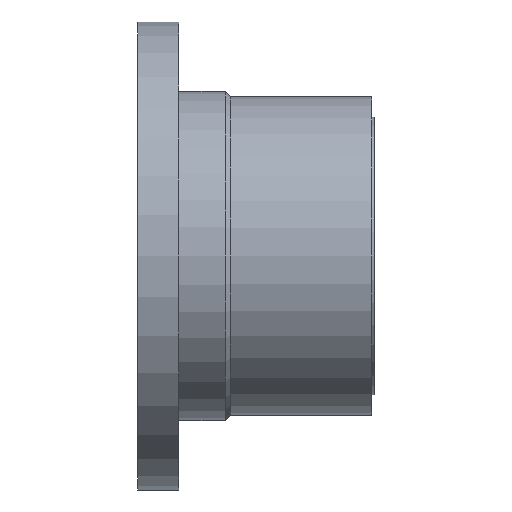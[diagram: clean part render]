
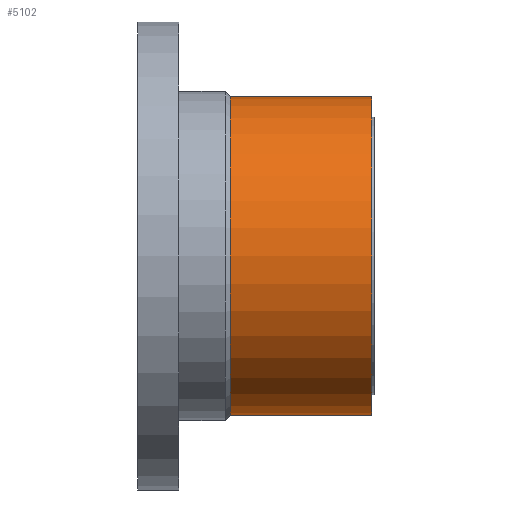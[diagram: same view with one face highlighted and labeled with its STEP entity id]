
A CAD part, left-side view. The second image highlights one B-rep face of the part: STEP entity #5102.
In plain terms, the highlighted cylindrical face has radius 31 mm (diameter 62 mm), a partial arc.
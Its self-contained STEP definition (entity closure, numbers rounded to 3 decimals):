
#389 = DIRECTION ( 'NONE',  ( 0., 1., 0. ) ) ;
#777 = DIRECTION ( 'NONE',  ( 0., 1., 0. ) ) ;
#828 = DIRECTION ( 'NONE',  ( 0., 0., 1. ) ) ;
#1477 = CARTESIAN_POINT ( 'NONE',  ( 0., -4., 31. ) ) ;
#1560 = CYLINDRICAL_SURFACE ( 'NONE', #10081, 31. ) ;
#1780 = VERTEX_POINT ( 'NONE', #11649 ) ;
#1851 = EDGE_CURVE ( 'NONE', #1780, #8009, #9163, .T. ) ;
#2105 = VERTEX_POINT ( 'NONE', #10418 ) ;
#2279 = DIRECTION ( 'NONE',  ( 0., 0., 1. ) ) ;
#2815 = ORIENTED_EDGE ( 'NONE', *, *, #1851, .F. ) ;
#3140 = CARTESIAN_POINT ( 'NONE',  ( 0., -31.5, 0. ) ) ;
#3439 = CARTESIAN_POINT ( 'NONE',  ( 0., -4., 0. ) ) ;
#3449 = CIRCLE ( 'NONE', #10293, 31. ) ;
#4007 = EDGE_CURVE ( 'NONE', #2105, #1780, #10565, .T. ) ;
#4245 = DIRECTION ( 'NONE',  ( 0., 1., 0. ) ) ;
#5052 = AXIS2_PLACEMENT_3D ( 'NONE', #3439, #4245, #7185 ) ;
#5102 = ADVANCED_FACE ( 'NONE', ( #5358 ), #1560, .T. ) ;
#5358 = FACE_OUTER_BOUND ( 'NONE', #8579, .T. ) ;
#6800 = VERTEX_POINT ( 'NONE', #11534 ) ;
#7068 = CARTESIAN_POINT ( 'NONE',  ( 0., -32.05, 31. ) ) ;
#7158 = ORIENTED_EDGE ( 'NONE', *, *, #4007, .F. ) ;
#7185 = DIRECTION ( 'NONE',  ( 0.857, 0., 0.515 ) ) ;
#7636 = DIRECTION ( 'NONE',  ( 0., 1., 0. ) ) ;
#7991 = LINE ( 'NONE', #7068, #9314 ) ;
#8009 = VERTEX_POINT ( 'NONE', #1477 ) ;
#8579 = EDGE_LOOP ( 'NONE', ( #7158, #11253, #8999, #2815 ) ) ;
#8999 = ORIENTED_EDGE ( 'NONE', *, *, #10624, .T. ) ;
#9163 = CIRCLE ( 'NONE', #5052, 31. ) ;
#9314 = VECTOR ( 'NONE', #11950, 1000. ) ;
#9466 = CARTESIAN_POINT ( 'NONE',  ( 0., -32.05, -31. ) ) ;
#10081 = AXIS2_PLACEMENT_3D ( 'NONE', #11851, #777, #828 ) ;
#10293 = AXIS2_PLACEMENT_3D ( 'NONE', #3140, #389, #2279 ) ;
#10374 = EDGE_CURVE ( 'NONE', #2105, #6800, #3449, .T. ) ;
#10418 = CARTESIAN_POINT ( 'NONE',  ( 0., -31.5, -31. ) ) ;
#10565 = LINE ( 'NONE', #9466, #11456 ) ;
#10624 = EDGE_CURVE ( 'NONE', #6800, #8009, #7991, .T. ) ;
#11253 = ORIENTED_EDGE ( 'NONE', *, *, #10374, .T. ) ;
#11456 = VECTOR ( 'NONE', #7636, 1000. ) ;
#11534 = CARTESIAN_POINT ( 'NONE',  ( 0., -31.5, 31. ) ) ;
#11649 = CARTESIAN_POINT ( 'NONE',  ( 0., -4., -31. ) ) ;
#11851 = CARTESIAN_POINT ( 'NONE',  ( 0., -32.05, 0. ) ) ;
#11950 = DIRECTION ( 'NONE',  ( 0., 1., 0. ) ) ;
